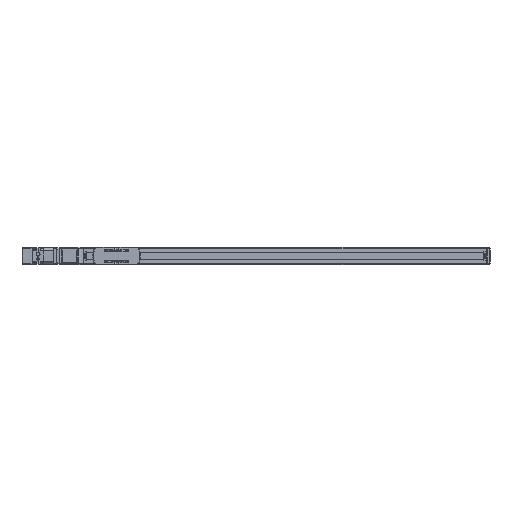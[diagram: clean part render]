
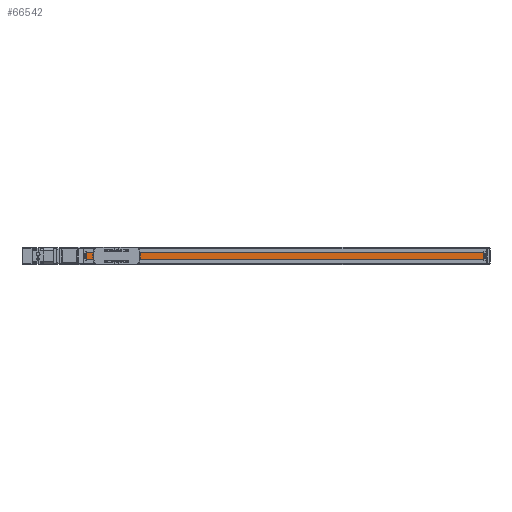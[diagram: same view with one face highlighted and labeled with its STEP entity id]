
A CAD part, top view. The second image highlights one B-rep face of the part: STEP entity #66542.
In plain terms, the highlighted planar face has unit normal (0, 0, 1) as drawn and (0, 1, 0) by its records, which use the part's own axes.
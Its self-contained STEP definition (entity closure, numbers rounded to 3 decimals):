
#66250 = PLANE('',#66251);
#66251 = AXIS2_PLACEMENT_3D('',#66252,#66253,#66254);
#66252 = CARTESIAN_POINT('',(-16.5,13.8,-10.));
#66253 = DIRECTION('',(1.,0.,0.));
#66254 = DIRECTION('',(0.,0.,-1.));
#66306 = PLANE('',#66307);
#66307 = AXIS2_PLACEMENT_3D('',#66308,#66309,#66310);
#66308 = CARTESIAN_POINT('',(-1019.5,13.8,10.));
#66309 = DIRECTION('',(-1.,0.,0.));
#66310 = DIRECTION('',(0.,0.,1.));
#66542 = ADVANCED_FACE('',(#66543),#66557,.T.);
#66543 = FACE_BOUND('',#66544,.T.);
#66544 = EDGE_LOOP('',(#66545,#66580,#66603,#66631));
#66545 = ORIENTED_EDGE('',*,*,#66546,.T.);
#66546 = EDGE_CURVE('',#66547,#66549,#66551,.T.);
#66547 = VERTEX_POINT('',#66548);
#66548 = CARTESIAN_POINT('',(-1019.5,12.3,9.2));
#66549 = VERTEX_POINT('',#66550);
#66550 = CARTESIAN_POINT('',(-16.5,12.3,9.2));
#66551 = SURFACE_CURVE('',#66552,(#66556,#66568),.PCURVE_S1.);
#66552 = LINE('',#66553,#66554);
#66553 = CARTESIAN_POINT('',(-1026.5,12.3,9.2));
#66554 = VECTOR('',#66555,1.);
#66555 = DIRECTION('',(1.,0.,0.));
#66556 = PCURVE('',#66557,#66562);
#66557 = PLANE('',#66558);
#66558 = AXIS2_PLACEMENT_3D('',#66559,#66560,#66561);
#66559 = CARTESIAN_POINT('',(-1026.5,12.3,-18.034));
#66560 = DIRECTION('',(0.,1.,0.));
#66561 = DIRECTION('',(0.,-0.,1.));
#66562 = DEFINITIONAL_REPRESENTATION('',(#66563),#66567);
#66563 = LINE('',#66564,#66565);
#66564 = CARTESIAN_POINT('',(27.234,0.));
#66565 = VECTOR('',#66566,1.);
#66566 = DIRECTION('',(0.,1.));
#66567 = ( GEOMETRIC_REPRESENTATION_CONTEXT(2) 
PARAMETRIC_REPRESENTATION_CONTEXT() REPRESENTATION_CONTEXT('2D SPACE',''
  ) );
#66568 = PCURVE('',#66569,#66574);
#66569 = PLANE('',#66570);
#66570 = AXIS2_PLACEMENT_3D('',#66571,#66572,#66573);
#66571 = CARTESIAN_POINT('',(-1026.5,11.1,9.2));
#66572 = DIRECTION('',(0.,0.,-1.));
#66573 = DIRECTION('',(0.,1.,0.));
#66574 = DEFINITIONAL_REPRESENTATION('',(#66575),#66579);
#66575 = LINE('',#66576,#66577);
#66576 = CARTESIAN_POINT('',(1.2,0.));
#66577 = VECTOR('',#66578,1.);
#66578 = DIRECTION('',(0.,1.));
#66579 = ( GEOMETRIC_REPRESENTATION_CONTEXT(2) 
PARAMETRIC_REPRESENTATION_CONTEXT() REPRESENTATION_CONTEXT('2D SPACE',''
  ) );
#66580 = ORIENTED_EDGE('',*,*,#66581,.T.);
#66581 = EDGE_CURVE('',#66549,#66582,#66584,.T.);
#66582 = VERTEX_POINT('',#66583);
#66583 = CARTESIAN_POINT('',(-16.5,12.3,-9.2));
#66584 = SURFACE_CURVE('',#66585,(#66589,#66596),.PCURVE_S1.);
#66585 = LINE('',#66586,#66587);
#66586 = CARTESIAN_POINT('',(-16.5,12.3,-18.034));
#66587 = VECTOR('',#66588,1.);
#66588 = DIRECTION('',(0.,0.,-1.));
#66589 = PCURVE('',#66557,#66590);
#66590 = DEFINITIONAL_REPRESENTATION('',(#66591),#66595);
#66591 = LINE('',#66592,#66593);
#66592 = CARTESIAN_POINT('',(0.,1010.));
#66593 = VECTOR('',#66594,1.);
#66594 = DIRECTION('',(-1.,0.));
#66595 = ( GEOMETRIC_REPRESENTATION_CONTEXT(2) 
PARAMETRIC_REPRESENTATION_CONTEXT() REPRESENTATION_CONTEXT('2D SPACE',''
  ) );
#66596 = PCURVE('',#66250,#66597);
#66597 = DEFINITIONAL_REPRESENTATION('',(#66598),#66602);
#66598 = LINE('',#66599,#66600);
#66599 = CARTESIAN_POINT('',(8.034,-1.5));
#66600 = VECTOR('',#66601,1.);
#66601 = DIRECTION('',(1.,0.));
#66602 = ( GEOMETRIC_REPRESENTATION_CONTEXT(2) 
PARAMETRIC_REPRESENTATION_CONTEXT() REPRESENTATION_CONTEXT('2D SPACE',''
  ) );
#66603 = ORIENTED_EDGE('',*,*,#66604,.F.);
#66604 = EDGE_CURVE('',#66605,#66582,#66607,.T.);
#66605 = VERTEX_POINT('',#66606);
#66606 = CARTESIAN_POINT('',(-1019.5,12.3,-9.2));
#66607 = SURFACE_CURVE('',#66608,(#66612,#66619),.PCURVE_S1.);
#66608 = LINE('',#66609,#66610);
#66609 = CARTESIAN_POINT('',(-1026.5,12.3,-9.2));
#66610 = VECTOR('',#66611,1.);
#66611 = DIRECTION('',(1.,0.,0.));
#66612 = PCURVE('',#66557,#66613);
#66613 = DEFINITIONAL_REPRESENTATION('',(#66614),#66618);
#66614 = LINE('',#66615,#66616);
#66615 = CARTESIAN_POINT('',(8.834,0.));
#66616 = VECTOR('',#66617,1.);
#66617 = DIRECTION('',(0.,1.));
#66618 = ( GEOMETRIC_REPRESENTATION_CONTEXT(2) 
PARAMETRIC_REPRESENTATION_CONTEXT() REPRESENTATION_CONTEXT('2D SPACE',''
  ) );
#66619 = PCURVE('',#66620,#66625);
#66620 = PLANE('',#66621);
#66621 = AXIS2_PLACEMENT_3D('',#66622,#66623,#66624);
#66622 = CARTESIAN_POINT('',(-1026.5,12.3,-9.2));
#66623 = DIRECTION('',(0.,0.,1.));
#66624 = DIRECTION('',(0.,-1.,0.));
#66625 = DEFINITIONAL_REPRESENTATION('',(#66626),#66630);
#66626 = LINE('',#66627,#66628);
#66627 = CARTESIAN_POINT('',(0.,0.));
#66628 = VECTOR('',#66629,1.);
#66629 = DIRECTION('',(0.,1.));
#66630 = ( GEOMETRIC_REPRESENTATION_CONTEXT(2) 
PARAMETRIC_REPRESENTATION_CONTEXT() REPRESENTATION_CONTEXT('2D SPACE',''
  ) );
#66631 = ORIENTED_EDGE('',*,*,#66632,.T.);
#66632 = EDGE_CURVE('',#66605,#66547,#66633,.T.);
#66633 = SURFACE_CURVE('',#66634,(#66638,#66645),.PCURVE_S1.);
#66634 = LINE('',#66635,#66636);
#66635 = CARTESIAN_POINT('',(-1019.5,12.3,-18.034));
#66636 = VECTOR('',#66637,1.);
#66637 = DIRECTION('',(0.,0.,1.));
#66638 = PCURVE('',#66557,#66639);
#66639 = DEFINITIONAL_REPRESENTATION('',(#66640),#66644);
#66640 = LINE('',#66641,#66642);
#66641 = CARTESIAN_POINT('',(0.,7.));
#66642 = VECTOR('',#66643,1.);
#66643 = DIRECTION('',(1.,0.));
#66644 = ( GEOMETRIC_REPRESENTATION_CONTEXT(2) 
PARAMETRIC_REPRESENTATION_CONTEXT() REPRESENTATION_CONTEXT('2D SPACE',''
  ) );
#66645 = PCURVE('',#66306,#66646);
#66646 = DEFINITIONAL_REPRESENTATION('',(#66647),#66651);
#66647 = LINE('',#66648,#66649);
#66648 = CARTESIAN_POINT('',(-28.034,-1.5));
#66649 = VECTOR('',#66650,1.);
#66650 = DIRECTION('',(1.,0.));
#66651 = ( GEOMETRIC_REPRESENTATION_CONTEXT(2) 
PARAMETRIC_REPRESENTATION_CONTEXT() REPRESENTATION_CONTEXT('2D SPACE',''
  ) );
